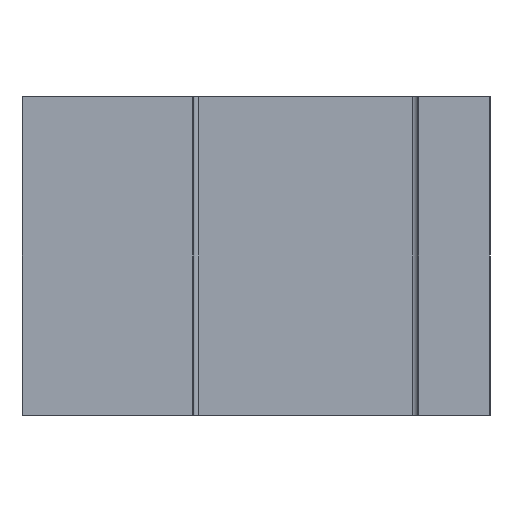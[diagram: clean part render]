
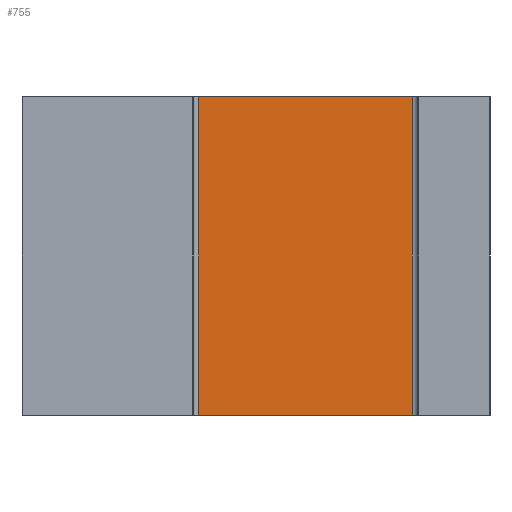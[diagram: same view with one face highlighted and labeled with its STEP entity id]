
A CAD part, front view. The second image highlights one B-rep face of the part: STEP entity #755.
In plain terms, the highlighted planar face has unit normal (0, -1, 0).
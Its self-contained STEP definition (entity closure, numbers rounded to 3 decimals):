
#693 = VERTEX_POINT( '', #1807 );
#755 = ADVANCED_FACE( '', ( #1877 ), #1878, .T. );
#1045 = VERTEX_POINT( '', #2206 );
#1051 = VERTEX_POINT( '', #2214 );
#1059 = EDGE_CURVE( '', #693, #1157, #2223, .T. );
#1157 = VERTEX_POINT( '', #2337 );
#1163 = EDGE_CURVE( '', #1051, #1157, #2343, .T. );
#1475 = EDGE_CURVE( '', #1045, #1051, #2690, .T. );
#1609 = EDGE_CURVE( '', #1045, #693, #2838, .T. );
#1807 = CARTESIAN_POINT( '', ( 11.4, 9.15, 0. ) );
#1877 = FACE_OUTER_BOUND( '', #3196, .T. );
#1878 = PLANE( '', #3197 );
#2206 = CARTESIAN_POINT( '', ( -11.4, 9.15, 0. ) );
#2214 = CARTESIAN_POINT( '', ( -11.4, 9.15, -34. ) );
#2223 = LINE( '', #3656, #3657 );
#2337 = CARTESIAN_POINT( '', ( 11.4, 9.15, -34. ) );
#2343 = LINE( '', #3826, #3827 );
#2690 = LINE( '', #4281, #4282 );
#2838 = LINE( '', #4488, #4489 );
#3196 = EDGE_LOOP( '', ( #4780, #4781, #4782, #4783 ) );
#3197 = AXIS2_PLACEMENT_3D( '', #4784, #4785, #4786 );
#3656 = CARTESIAN_POINT( '', ( 11.4, 9.15, 0. ) );
#3657 = VECTOR( '', #5187, 1. );
#3826 = CARTESIAN_POINT( '', ( -11.4, 9.15, -34. ) );
#3827 = VECTOR( '', #5319, 1. );
#4281 = CARTESIAN_POINT( '', ( -11.4, 9.15, 0. ) );
#4282 = VECTOR( '', #5724, 1. );
#4488 = CARTESIAN_POINT( '', ( -11.4, 9.15, 0. ) );
#4489 = VECTOR( '', #5884, 1. );
#4780 = ORIENTED_EDGE( '', *, *, #1163, .T. );
#4781 = ORIENTED_EDGE( '', *, *, #1059, .F. );
#4782 = ORIENTED_EDGE( '', *, *, #1609, .F. );
#4783 = ORIENTED_EDGE( '', *, *, #1475, .T. );
#4784 = CARTESIAN_POINT( '', ( -11.4, 9.15, 0. ) );
#4785 = DIRECTION( '', ( 0., -1., 0. ) );
#4786 = DIRECTION( '', ( -1., 0., 0. ) );
#5187 = DIRECTION( '', ( 0., 0., -1. ) );
#5319 = DIRECTION( '', ( 1., 0., 0. ) );
#5724 = DIRECTION( '', ( 0., 0., -1. ) );
#5884 = DIRECTION( '', ( 1., 0., 0. ) );
